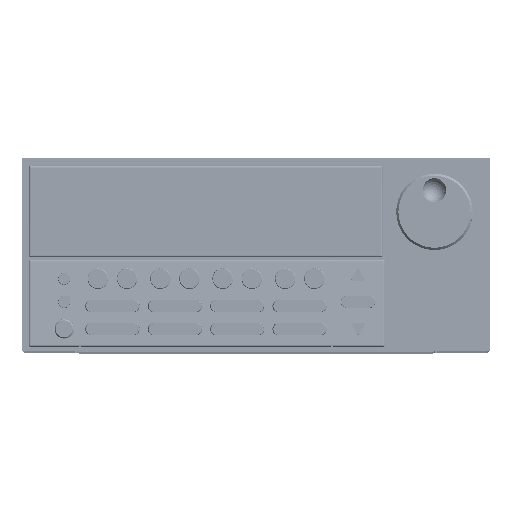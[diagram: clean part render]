
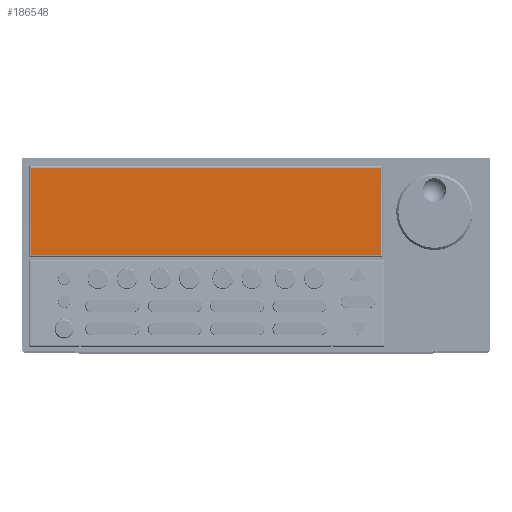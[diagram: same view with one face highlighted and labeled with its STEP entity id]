
A CAD part, top view. The second image highlights one B-rep face of the part: STEP entity #186548.
In plain terms, the highlighted planar face has unit normal (0, 0, 1).
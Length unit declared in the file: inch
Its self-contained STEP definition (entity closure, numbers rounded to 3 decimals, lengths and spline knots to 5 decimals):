
#186337=DIRECTION('',(1.,0.,0.));
#186338=VECTOR('',#186337,6.298);
#186339=CARTESIAN_POINT('',(0.035,0.035,0.093));
#186340=LINE('',#186339,#186338);
#186354=DIRECTION('',(0.,-1.,0.));
#186355=VECTOR('',#186354,1.578);
#186356=CARTESIAN_POINT('',(0.035,1.613,0.093));
#186357=LINE('',#186356,#186355);
#186380=DIRECTION('',(-1.,0.,0.));
#186381=VECTOR('',#186380,6.298);
#186382=CARTESIAN_POINT('',(6.333,1.613,0.093));
#186383=LINE('',#186382,#186381);
#186398=DIRECTION('',(0.,1.,0.));
#186399=VECTOR('',#186398,1.578);
#186400=CARTESIAN_POINT('',(6.333,0.035,0.093));
#186401=LINE('',#186400,#186399);
#186427=CARTESIAN_POINT('',(6.333,0.035,0.093));
#186428=CARTESIAN_POINT('',(6.333,1.613,0.093));
#186429=VERTEX_POINT('',#186427);
#186430=VERTEX_POINT('',#186428);
#186435=CARTESIAN_POINT('',(0.035,0.035,0.093));
#186436=VERTEX_POINT('',#186435);
#186439=CARTESIAN_POINT('',(0.035,1.613,0.093));
#186440=VERTEX_POINT('',#186439);
#186534=CARTESIAN_POINT('',(0.,0.,0.093));
#186535=DIRECTION('',(0.,0.,1.));
#186536=DIRECTION('',(1.,0.,0.));
#186537=AXIS2_PLACEMENT_3D('',#186534,#186535,#186536);
#186538=PLANE('',#186537);
#186540=ORIENTED_EDGE('',*,*,#186539,.F.);
#186542=ORIENTED_EDGE('',*,*,#186541,.F.);
#186544=ORIENTED_EDGE('',*,*,#186543,.F.);
#186545=ORIENTED_EDGE('',*,*,#186524,.F.);
#186546=EDGE_LOOP('',(#186540,#186542,#186544,#186545));
#186547=FACE_OUTER_BOUND('',#186546,.F.);
#186548=ADVANCED_FACE('',(#186547),#186538,.T.);
#186524=EDGE_CURVE('',#186436,#186429,#186340,.T.);
#186539=EDGE_CURVE('',#186440,#186436,#186357,.T.);
#186541=EDGE_CURVE('',#186430,#186440,#186383,.T.);
#186543=EDGE_CURVE('',#186429,#186430,#186401,.T.);
